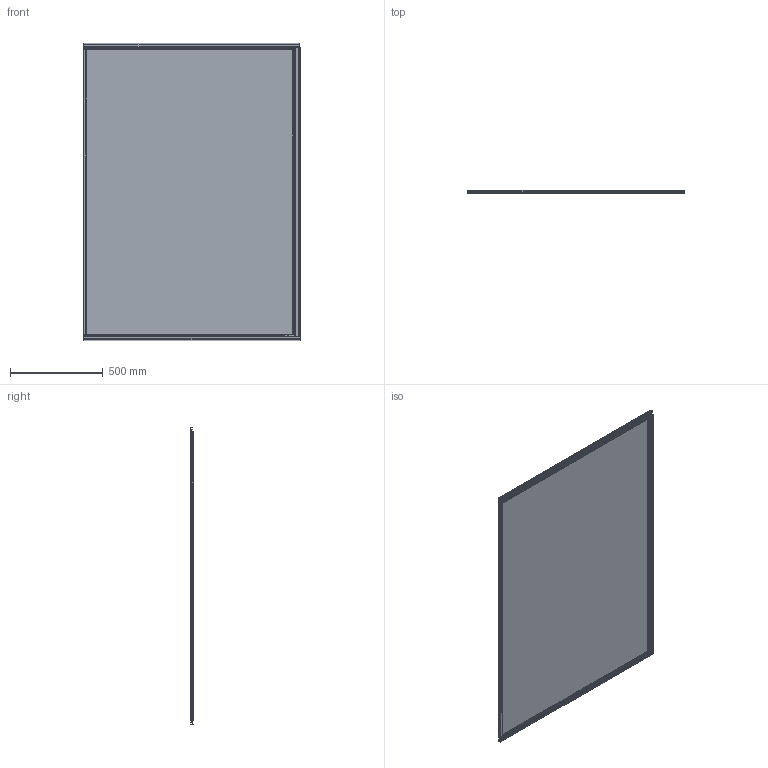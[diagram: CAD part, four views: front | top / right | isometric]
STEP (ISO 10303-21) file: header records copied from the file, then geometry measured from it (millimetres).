
FILE_DESCRIPTION(/* description */ ('PV-Modul Solrif N','CAx-IF Rec.Pracs.---Representation and Presentation of Product Manufacturing Information (PMI)---4.0---2014-10-13'),/* implementation_level */ '2;1');
FILE_NAME(/* name */ 'O:\S_Sonnenenergie\Entwicklung\40 Produkte\Bilder und CAD-Daten für Kunden\Solrif\01 CAD Datensätze\1607 x 1169 Aleo LEO Sol 335-345 W\H107072 PV-Modul 1607x1169.stp',/* time_stamp */ '2022-02-24T14:01:48+01:00',/* author */ ('rog2545'),/* organization */ (''),/* preprocessor_version */ 'ST-DEVELOPER v17',/* originating_system */ 'Autodesk Inventor 2019',/* authorisation */ '');
FILE_SCHEMA (('AP242_MANAGED_MODEL_BASED_3D_ENGINEERING_MIM_LF { 1 0 10303 442 1 1 4 }'));
Products named in the file (1): H107072
Bounding box: 1168.5 x 18 x 1607 mm (x, y, z)
Volume: 7949885 mm3; surface area: 4456311.6 mm2
Topology: 28 solids, 28 shells, 2699 faces, 7077 edges, 4311 vertices
Faces by surface type: cylinder 1034, plane 779, bspline 450, torus 360, sphere 54, cone 22
Full cylindrical faces by diameter (mm): 3.242 x8, 3.3 x2, 4 x8, 4.8 x2, 6 x2, 12.5 x1
Entity records: 100652 total; most frequent: CARTESIAN_POINT 32918, ORIENTED_EDGE 13994, DIRECTION 13465, EDGE_CURVE 6997, AXIS2_PLACEMENT_3D 5208, VERTEX_POINT 4311, LINE 3049, VECTOR 3049
